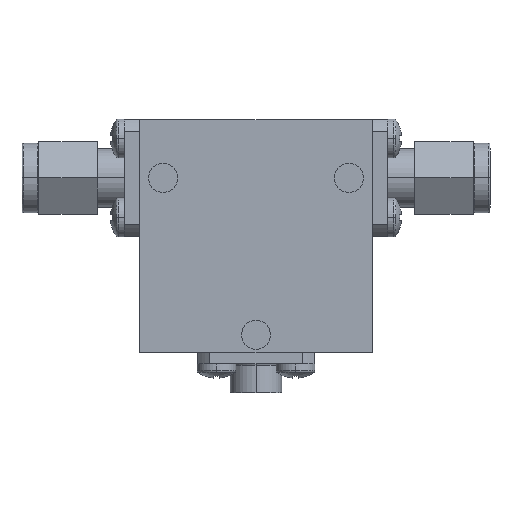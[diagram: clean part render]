
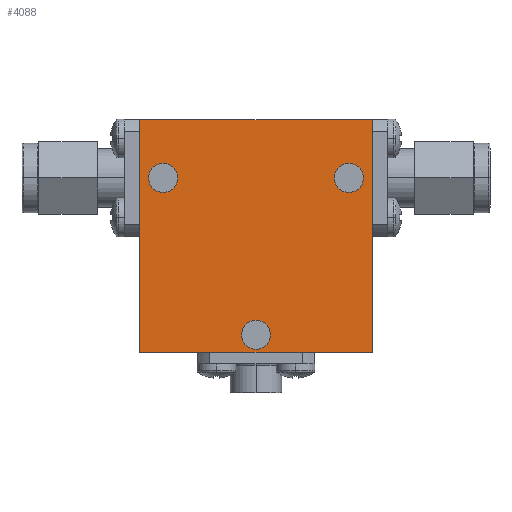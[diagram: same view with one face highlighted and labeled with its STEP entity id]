
A CAD part, top view. The second image highlights one B-rep face of the part: STEP entity #4088.
In plain terms, the highlighted planar face has unit normal (0, 0, 1).
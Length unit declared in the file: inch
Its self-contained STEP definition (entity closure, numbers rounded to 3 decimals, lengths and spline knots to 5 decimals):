
#22 = CARTESIAN_POINT ( 'NONE',  ( -0.4625, 0.25, 0.25 ) ) ;
#23 = FACE_BOUND ( 'NONE', #482, .T. ) ;
#57 = EDGE_CURVE ( 'NONE', #1387, #1102, #1042, .T. ) ;
#240 = ORIENTED_EDGE ( 'NONE', *, *, #57, .T. ) ;
#244 = LINE ( 'NONE', #2831, #766 ) ;
#267 = EDGE_CURVE ( 'NONE', #2117, #1513, #674, .T. ) ;
#296 = DIRECTION ( 'NONE',  ( 0., 0., 1. ) ) ;
#337 = DIRECTION ( 'NONE',  ( 0., 0., 1. ) ) ;
#384 = EDGE_CURVE ( 'NONE', #4142, #2891, #2348, .T. ) ;
#465 = CIRCLE ( 'NONE', #3604, 0.0625 ) ;
#482 = EDGE_LOOP ( 'NONE', ( #2998, #4290 ) ) ;
#492 = EDGE_CURVE ( 'NONE', #3404, #1641, #2513, .T. ) ;
#527 = DIRECTION ( 'NONE',  ( 0., 0., 1. ) ) ;
#612 = CARTESIAN_POINT ( 'NONE',  ( 0., -0.425, 0.25 ) ) ;
#615 = AXIS2_PLACEMENT_3D ( 'NONE', #3899, #4291, #3213 ) ;
#638 = VERTEX_POINT ( 'NONE', #2665 ) ;
#674 = CIRCLE ( 'NONE', #2755, 0.0625 ) ;
#737 = VECTOR ( 'NONE', #1586, 39.37008 ) ;
#766 = VECTOR ( 'NONE', #3047, 39.37008 ) ;
#799 = AXIS2_PLACEMENT_3D ( 'NONE', #3613, #1233, #1581 ) ;
#944 = VERTEX_POINT ( 'NONE', #1930 ) ;
#967 = DIRECTION ( 'NONE',  ( 1., 0., 0. ) ) ;
#1019 = AXIS2_PLACEMENT_3D ( 'NONE', #612, #3993, #4337 ) ;
#1042 = LINE ( 'NONE', #3812, #2627 ) ;
#1102 = VERTEX_POINT ( 'NONE', #4029 ) ;
#1233 = DIRECTION ( 'NONE',  ( 0., 0., 1. ) ) ;
#1281 = PLANE ( 'NONE',  #3998 ) ;
#1387 = VERTEX_POINT ( 'NONE', #2964 ) ;
#1403 = EDGE_LOOP ( 'NONE', ( #4258, #3657 ) ) ;
#1404 = LINE ( 'NONE', #2971, #737 ) ;
#1412 = CARTESIAN_POINT ( 'NONE',  ( 0.4625, 0.25, 0.25 ) ) ;
#1439 = AXIS2_PLACEMENT_3D ( 'NONE', #4045, #296, #967 ) ;
#1442 = FACE_BOUND ( 'NONE', #2474, .T. ) ;
#1513 = VERTEX_POINT ( 'NONE', #2700 ) ;
#1581 = DIRECTION ( 'NONE',  ( 1., 0., 0. ) ) ;
#1586 = DIRECTION ( 'NONE',  ( -1., 0., 0. ) ) ;
#1593 = CARTESIAN_POINT ( 'NONE',  ( -0.5, -0.5, 0.25 ) ) ;
#1641 = VERTEX_POINT ( 'NONE', #3061 ) ;
#1689 = CIRCLE ( 'NONE', #1019, 0.0625 ) ;
#1804 = DIRECTION ( 'NONE',  ( 1., 0., 0. ) ) ;
#1894 = CARTESIAN_POINT ( 'NONE',  ( 0.3375, 0.25, 0.25 ) ) ;
#1930 = CARTESIAN_POINT ( 'NONE',  ( -0.5, -0.5, 0.25 ) ) ;
#1952 = DIRECTION ( 'NONE',  ( 1., 0., 0. ) ) ;
#1966 = DIRECTION ( 'NONE',  ( 1., 0., 0. ) ) ;
#2117 = VERTEX_POINT ( 'NONE', #22 ) ;
#2207 = ORIENTED_EDGE ( 'NONE', *, *, #2364, .T. ) ;
#2316 = EDGE_CURVE ( 'NONE', #2891, #4142, #2634, .T. ) ;
#2347 = DIRECTION ( 'NONE',  ( 1., 0., 0. ) ) ;
#2348 = CIRCLE ( 'NONE', #799, 0.0625 ) ;
#2360 = ORIENTED_EDGE ( 'NONE', *, *, #2316, .F. ) ;
#2364 = EDGE_CURVE ( 'NONE', #1102, #638, #1404, .T. ) ;
#2465 = VECTOR ( 'NONE', #1966, 39.37008 ) ;
#2474 = EDGE_LOOP ( 'NONE', ( #2558, #2360 ) ) ;
#2494 = DIRECTION ( 'NONE',  ( 0., 1., 0. ) ) ;
#2513 = CIRCLE ( 'NONE', #1439, 0.0625 ) ;
#2558 = ORIENTED_EDGE ( 'NONE', *, *, #384, .F. ) ;
#2627 = VECTOR ( 'NONE', #2494, 39.37008 ) ;
#2634 = CIRCLE ( 'NONE', #615, 0.0625 ) ;
#2665 = CARTESIAN_POINT ( 'NONE',  ( -0.5, 0.5, 0.25 ) ) ;
#2687 = CARTESIAN_POINT ( 'NONE',  ( -0.4, 0.25, 0.25 ) ) ;
#2700 = CARTESIAN_POINT ( 'NONE',  ( -0.3375, 0.25, 0.25 ) ) ;
#2755 = AXIS2_PLACEMENT_3D ( 'NONE', #3574, #527, #1804 ) ;
#2831 = CARTESIAN_POINT ( 'NONE',  ( -0.5, 0.5, 0.25 ) ) ;
#2891 = VERTEX_POINT ( 'NONE', #1894 ) ;
#2897 = LINE ( 'NONE', #1593, #2465 ) ;
#2964 = CARTESIAN_POINT ( 'NONE',  ( 0.5, -0.5, 0.25 ) ) ;
#2971 = CARTESIAN_POINT ( 'NONE',  ( -0.5, 0.5, 0.25 ) ) ;
#2998 = ORIENTED_EDGE ( 'NONE', *, *, #4102, .F. ) ;
#3047 = DIRECTION ( 'NONE',  ( 0., -1., 0. ) ) ;
#3050 = EDGE_CURVE ( 'NONE', #944, #1387, #2897, .T. ) ;
#3061 = CARTESIAN_POINT ( 'NONE',  ( 0.0625, -0.425, 0.25 ) ) ;
#3188 = FACE_OUTER_BOUND ( 'NONE', #3271, .T. ) ;
#3213 = DIRECTION ( 'NONE',  ( 1., 0., 0. ) ) ;
#3271 = EDGE_LOOP ( 'NONE', ( #240, #2207, #3620, #3858 ) ) ;
#3404 = VERTEX_POINT ( 'NONE', #4260 ) ;
#3574 = CARTESIAN_POINT ( 'NONE',  ( -0.4, 0.25, 0.25 ) ) ;
#3604 = AXIS2_PLACEMENT_3D ( 'NONE', #2687, #3706, #2347 ) ;
#3613 = CARTESIAN_POINT ( 'NONE',  ( 0.4, 0.25, 0.25 ) ) ;
#3620 = ORIENTED_EDGE ( 'NONE', *, *, #3820, .T. ) ;
#3657 = ORIENTED_EDGE ( 'NONE', *, *, #267, .F. ) ;
#3706 = DIRECTION ( 'NONE',  ( 0., 0., 1. ) ) ;
#3709 = EDGE_CURVE ( 'NONE', #1513, #2117, #465, .T. ) ;
#3812 = CARTESIAN_POINT ( 'NONE',  ( 0.5, 0.5, 0.25 ) ) ;
#3820 = EDGE_CURVE ( 'NONE', #638, #944, #244, .T. ) ;
#3858 = ORIENTED_EDGE ( 'NONE', *, *, #3050, .T. ) ;
#3899 = CARTESIAN_POINT ( 'NONE',  ( 0.4, 0.25, 0.25 ) ) ;
#3993 = DIRECTION ( 'NONE',  ( 0., 0., 1. ) ) ;
#3998 = AXIS2_PLACEMENT_3D ( 'NONE', #4039, #337, #1952 ) ;
#4029 = CARTESIAN_POINT ( 'NONE',  ( 0.5, 0.5, 0.25 ) ) ;
#4039 = CARTESIAN_POINT ( 'NONE',  ( 0., 0., 0.25 ) ) ;
#4045 = CARTESIAN_POINT ( 'NONE',  ( 0., -0.425, 0.25 ) ) ;
#4047 = FACE_BOUND ( 'NONE', #1403, .T. ) ;
#4088 = ADVANCED_FACE ( 'NONE', ( #1442, #23, #4047, #3188 ), #1281, .T. ) ;
#4102 = EDGE_CURVE ( 'NONE', #1641, #3404, #1689, .T. ) ;
#4142 = VERTEX_POINT ( 'NONE', #1412 ) ;
#4258 = ORIENTED_EDGE ( 'NONE', *, *, #3709, .F. ) ;
#4260 = CARTESIAN_POINT ( 'NONE',  ( -0.0625, -0.425, 0.25 ) ) ;
#4290 = ORIENTED_EDGE ( 'NONE', *, *, #492, .F. ) ;
#4291 = DIRECTION ( 'NONE',  ( 0., 0., 1. ) ) ;
#4337 = DIRECTION ( 'NONE',  ( 1., 0., 0. ) ) ;
